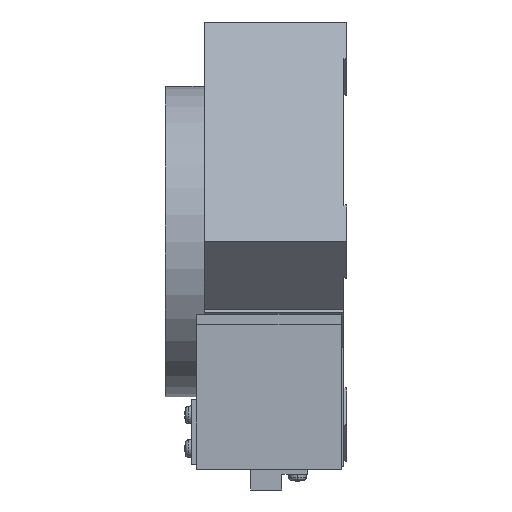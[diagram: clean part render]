
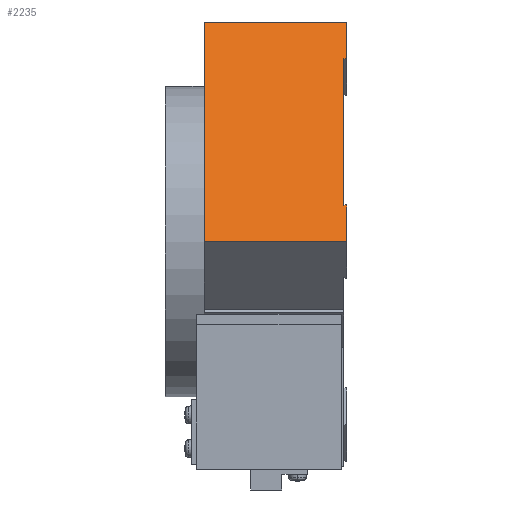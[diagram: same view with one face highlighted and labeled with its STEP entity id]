
A CAD part, left-side view. The second image highlights one B-rep face of the part: STEP entity #2235.
In plain terms, the highlighted planar face has unit normal (-0.707, 0, 0.707).
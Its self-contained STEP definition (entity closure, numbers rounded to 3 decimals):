
#2002 = VERTEX_POINT ( 'NONE', #4570 ) ;
#2008 = VERTEX_POINT ( 'NONE', #4624 ) ;
#2010 = EDGE_CURVE ( 'NONE', #2002, #2008, #4623, .T. ) ;
#2050 = EDGE_CURVE ( 'NONE', #2069, #2075, #4686, .T. ) ;
#2069 = VERTEX_POINT ( 'NONE', #4716 ) ;
#2075 = VERTEX_POINT ( 'NONE', #4706 ) ;
#2135 = EDGE_CURVE ( 'NONE', #2136, #2002, #4817, .T. ) ;
#2136 = VERTEX_POINT ( 'NONE', #4813 ) ;
#2156 = VERTEX_POINT ( 'NONE', #4846 ) ;
#2158 = EDGE_CURVE ( 'NONE', #2156, #2075, #4845, .T. ) ;
#2235 = ADVANCED_FACE ( 'NONE', ( #4964 ), #4963, .F. ) ;
#2236 = EDGE_LOOP ( 'NONE', ( #2237, #2297, #2298, #2299, #2301, #2302, #2303, #2304 ) ) ;
#2237 = ORIENTED_EDGE ( 'NONE', *, *, #2238, .T. ) ;
#2238 = EDGE_CURVE ( 'NONE', #2239, #2069, #4958, .T. ) ;
#2239 = VERTEX_POINT ( 'NONE', #5020 ) ;
#2249 = EDGE_CURVE ( 'NONE', #2250, #2008, #5005, .T. ) ;
#2250 = VERTEX_POINT ( 'NONE', #5001 ) ;
#2297 = ORIENTED_EDGE ( 'NONE', *, *, #2050, .T. ) ;
#2298 = ORIENTED_EDGE ( 'NONE', *, *, #2158, .F. ) ;
#2299 = ORIENTED_EDGE ( 'NONE', *, *, #2300, .T. ) ;
#2300 = EDGE_CURVE ( 'NONE', #2156, #2136, #5054, .T. ) ;
#2301 = ORIENTED_EDGE ( 'NONE', *, *, #2135, .T. ) ;
#2302 = ORIENTED_EDGE ( 'NONE', *, *, #2010, .T. ) ;
#2303 = ORIENTED_EDGE ( 'NONE', *, *, #2249, .F. ) ;
#2304 = ORIENTED_EDGE ( 'NONE', *, *, #2305, .F. ) ;
#2305 = EDGE_CURVE ( 'NONE', #2239, #2250, #5108, .T. ) ;
#4570 = CARTESIAN_POINT ( 'NONE',  ( -7.071, 0., 35.355 ) ) ;
#4620 = DIRECTION ( 'NONE',  ( 0.707, 0., 0.707 ) ) ;
#4621 = VECTOR ( 'NONE', #4620, 1000. ) ;
#4622 = CARTESIAN_POINT ( 'NONE',  ( -42.426, 0., 0. ) ) ;
#4623 = LINE ( 'NONE', #4622, #4621 ) ;
#4624 = CARTESIAN_POINT ( 'NONE',  ( 0., 0., 42.426 ) ) ;
#4683 = DIRECTION ( 'NONE',  ( 0.707, 0., 0.707 ) ) ;
#4684 = VECTOR ( 'NONE', #4683, 1000. ) ;
#4685 = CARTESIAN_POINT ( 'NONE',  ( -42.426, 0., 0. ) ) ;
#4686 = LINE ( 'NONE', #4685, #4684 ) ;
#4706 = CARTESIAN_POINT ( 'NONE',  ( -35.355, 0., 7.071 ) ) ;
#4716 = CARTESIAN_POINT ( 'NONE',  ( -42.426, 0., 0. ) ) ;
#4813 = CARTESIAN_POINT ( 'NONE',  ( -7.071, 0.5, 35.355 ) ) ;
#4814 = DIRECTION ( 'NONE',  ( 0., -1., 0. ) ) ;
#4815 = VECTOR ( 'NONE', #4814, 1000. ) ;
#4816 = CARTESIAN_POINT ( 'NONE',  ( -7.071, 0.5, 35.355 ) ) ;
#4817 = LINE ( 'NONE', #4816, #4815 ) ;
#4842 = DIRECTION ( 'NONE',  ( 0., -1., 0. ) ) ;
#4843 = VECTOR ( 'NONE', #4842, 1000. ) ;
#4844 = CARTESIAN_POINT ( 'NONE',  ( -35.355, 0.5, 7.071 ) ) ;
#4845 = LINE ( 'NONE', #4844, #4843 ) ;
#4846 = CARTESIAN_POINT ( 'NONE',  ( -35.355, 0.5, 7.071 ) ) ;
#4957 = CARTESIAN_POINT ( 'NONE',  ( -42.426, 27.5, 0. ) ) ;
#4958 = LINE ( 'NONE', #4957, #5022 ) ;
#4959 = DIRECTION ( 'NONE',  ( -0.707, 0., -0.707 ) ) ;
#4960 = DIRECTION ( 'NONE',  ( 0.707, 0., -0.707 ) ) ;
#4961 = CARTESIAN_POINT ( 'NONE',  ( -42.426, 27.5, 0. ) ) ;
#4962 = AXIS2_PLACEMENT_3D ( 'NONE', #4961, #4960, #4959 ) ;
#4963 = PLANE ( 'NONE',  #4962 ) ;
#4964 = FACE_OUTER_BOUND ( 'NONE', #2236, .T. ) ;
#5001 = CARTESIAN_POINT ( 'NONE',  ( 0., 27.5, 42.426 ) ) ;
#5002 = DIRECTION ( 'NONE',  ( 0., -1., 0. ) ) ;
#5003 = VECTOR ( 'NONE', #5002, 1000. ) ;
#5004 = CARTESIAN_POINT ( 'NONE',  ( 0., 27.5, 42.426 ) ) ;
#5005 = LINE ( 'NONE', #5004, #5003 ) ;
#5020 = CARTESIAN_POINT ( 'NONE',  ( -42.426, 27.5, 0. ) ) ;
#5021 = DIRECTION ( 'NONE',  ( 0., -1., 0. ) ) ;
#5022 = VECTOR ( 'NONE', #5021, 1000. ) ;
#5054 = LINE ( 'NONE', #5111, #5110 ) ;
#5105 = DIRECTION ( 'NONE',  ( 0.707, 0., 0.707 ) ) ;
#5106 = VECTOR ( 'NONE', #5105, 1000. ) ;
#5107 = CARTESIAN_POINT ( 'NONE',  ( -42.426, 27.5, 0. ) ) ;
#5108 = LINE ( 'NONE', #5107, #5106 ) ;
#5109 = DIRECTION ( 'NONE',  ( 0.707, 0., 0.707 ) ) ;
#5110 = VECTOR ( 'NONE', #5109, 1000. ) ;
#5111 = CARTESIAN_POINT ( 'NONE',  ( -42.426, 0.5, 0. ) ) ;
